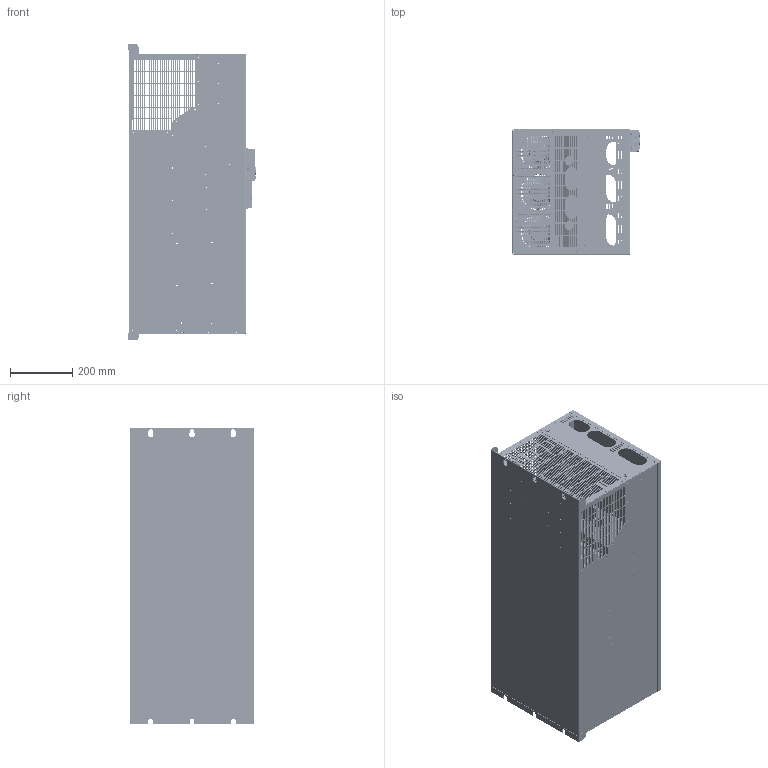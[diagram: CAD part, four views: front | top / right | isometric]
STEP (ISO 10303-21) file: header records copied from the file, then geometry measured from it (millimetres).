
FILE_DESCRIPTION (( 'STEP AP214' ), '1' );
FILE_NAME ('H120-160-200kw(2)^H120-160-200kw.STEP', '2024-12-10T06:06:16', ( '微软用户' ), ( '微软中国' ), 'SwSTEP 2.0', 'SolidWorks 2018', '' );
FILE_SCHEMA (( 'AUTOMOTIVE_DESIGN' ));
Length unit declared in the file: millimetre
Products named in the file (100): M4________-1-2_M4________^H164204______-1-2-2_H164204________-0201-1-2_H120-160-200kw(2)_H120-160-200kw; ____-____120x120-2^________120x120-2_H120-160-200kw(2)_H120-160-200kw; H164204PCB______-20190318-______20190328-0201-1-2^H164204______________-____-20190313-______20190328-0201-1-2_H164204____________-____-2018031820190328-0201-1-2_H120-160-200kw(2)_H120-1~; H164204______________-0201-1-2^H164204______-1-2_H164204________-0201-1-2_H120-160-200kw(2)_H120-160-200kw; pan head cross recess screw_iso_ISO 7045 - M2 x 8 - Z - 8N^H164204____________-2019031920190328-0201-1-2_H164204____________-____-2018031820190328-0201-1-2_H120-160-200kw(2)_H120-160-20~;  m4x14______________-1-2^H164204______-1-2-2_H164204________-0201-1-2_H120-160-200kw(2)_H120-160-200kw; ________120x120-2-7^________120x120-2_H120-160-200kw(2)_H120-160-200kw; H164204____0201-1-2^H120-160-200kw(2)_H120-160-200kw; M4________-1-2_M4________^H164204______________-0201-1-2_H164204______-1-2_H164204________-0201-1-2_H120-160-200kw(2)_H120-160-200kw; H164204__________4-20190309-2019031920190328-0201-1-2^H164204____________-2019031920190328-0201-1-2_H164204____________-____-2018031820190328-0201-1-2_H120-160-200kw(2)_H120-160-200kw; m5________-1-2^H164204______-1-2-2_H164204________-0201-1-2_H120-160-200kw(2)_H120-160-200kw; ____-24V120x120-2^________120x120-2_H120-160-200kw(2)_H120-160-200kw; H164204________2 -1-2^H164204____0201-1-2_H120-160-200kw(2)_H120-160-200kw; H164204______________-0201-1-2-0^H164204______________-0201-1-2_H164204______-1-2_H164204________-0201-1-2_H120-160-200kw(2)_H120-160-200kw; H164204M3X3mm________-____-20190313-2019031920190328-0201-1-2^H164204____________-2019031920190328-0201-1-2_H164204____________-____-2018031820190328-0201-1-2_H120-160-200kw(2)_H120-160~; H164204______-0201-1-2^H164204______-1-2-2_H164204________-0201-1-2_H120-160-200kw(2)_H120-160-200kw; H164-DFSZJ-20200915-1-2^H120-160-200kw(2)_H120-160-200kw; H164204____________-1-2^H164204____0201-1-2_H120-160-200kw(2)_H120-160-200kw; H164204______-1-2-1^H164204______-1-2_H164204________-0201-1-2_H120-160-200kw(2)_H120-160-200kw; H164204__________-0201-1-2^H164204____________-2019031920190328-0201-1-2_H164204____________-____-2018031820190328-0201-1-2_H120-160-200kw(2)_H120-160-200kw; H164204______-1-2^H164204________-0201-1-2_H120-160-200kw(2)_H120-160-200kw; M4________-1-2_M4________^H164-DFSZJ-20200915-1-2_H120-160-200kw(2)_H120-160-200kw; H164204________2-0201-1-2^H164204____0201-1-2_H120-160-200kw(2)_H120-160-200kw; H164204______1-0201-1-2^H164204______-1-2-1_H164204______-1-2_H164204________-0201-1-2_H120-160-200kw(2)_H120-160-200kw; H164204____-20190311-2019031920190328-0201-1-2^H164204____________-2019031920190328-0201-1-2_H164204____________-____-2018031820190328-0201-1-2_H120-160-200kw(2)_H120-160-200kw; ____________________-20210202-2^H164204______-1-2_H164204________-0201-1-2_H120-160-200kw(2)_H120-160-200kw; H164204-fszj -20200915-1-2^H164-DFSZJ-20200915-1-2_H120-160-200kw(2)_H120-160-200kw; H164204________1-0201-1-2^H164204____0201-1-2_H120-160-200kw(2)_H120-160-200kw; H164204xsdr-77f0600012-125k-1000________-0201-1-2^H120-160-200kw(2)_H120-160-200kw; H164204____01-0201-1-2^H164204______-1-2-1_H164204______-1-2_H164204________-0201-1-2_H120-160-200kw(2)_H120-160-200kw; H164204____-20190309-2019031920190328-0201-1-2^H164204____________-2019031920190328-0201-1-2_H164204____________-____-2018031820190328-0201-1-2_H120-160-200kw(2)_H120-160-200kw; M4________-2_M4________^____________________-20210202-2_H164204______-1-2_H164204________-0201-1-2_H120-160-200kw(2)_H120-160-200kw; H164204-CFB______-1-2^H120-160-200kw(2)_H120-160-200kw; H164204__3-0201-1-2^H164204____0201-1-2_H120-160-200kw(2)_H120-160-200kw; H164204______-0201-1-2-9^H120-160-200kw(2)_H120-160-200kw; H164204M4________-0201-1-2_M4________^H164204______-1-2-1_H164204______-1-2_H164204________-0201-1-2_H120-160-200kw(2)_H120-160-200kw; H164204______-____-20190313-2019031920190328-0201-1-2^H164204____________-2019031920190328-0201-1-2_H164204____________-____-2018031820190328-0201-1-2_H120-160-200kw(2)_H120-160-200kw; ______________-2^____________________-20210202-2_H164204______-1-2_H164204________-0201-1-2_H120-160-200kw(2)_H120-160-200kw; H164204-cfb-01-1-2^H164204-CFB______-1-2_H120-160-200kw(2)_H120-160-200kw; H164204__1-0201-1-2^H164204____0201-1-2_H120-160-200kw(2)_H120-160-200kw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
Assembly tree (192 placements, depth 5):
  H120-160-200kw(2)^H120-160-200kw
    H164204________-0201-1-2^H120-160-200kw(2)_H120-160-200kw
      H164204______-1-2^H164204________-0201-1-2_H120-160-200kw(2)_H120-160-200kw
        H164204______-1-2-1^H164204______-1-2_H164204________-0201-1-2_H120-160-200kw(2)_H120-160-200kw
          H164204M4________-0201-1-2_M4________^H164204______-1-2-1_H164204______-1-2_H164204________-0201-1-2_H120-160-200kw(2)_H120-160-200kw  x12
          H164204____01-0201-1-2^H164204______-1-2-1_H164204______-1-2_H164204________-0201-1-2_H120-160-200kw(2)_H120-160-200kw
          H164204______1-0201-1-2^H164204______-1-2-1_H164204______-1-2_H164204________-0201-1-2_H120-160-200kw(2)_H120-160-200kw
        H164204______________-0201-1-2^H164204______-1-2_H164204________-0201-1-2_H120-160-200kw(2)_H120-160-200kw  x2
          H164204______________-0201-1-2-0^H164204______________-0201-1-2_H164204______-1-2_H164204________-0201-1-2_H120-160-200kw(2)_H120-160-200kw
          M4________-1-2_M4________^H164204______________-0201-1-2_H164204______-1-2_H164204________-0201-1-2_H120-160-200kw(2)_H120-160-200kw
        H164204________________-0201-1-2^H164204______-1-2_H164204________-0201-1-2_H120-160-200kw(2)_H120-160-200kw
          H164204____________-0201-1-2^H164204________________-0201-1-2_H164204______-1-2_H164204________-0201-1-2_H120-160-200kw(2)_H120-160-200kw
          M4________-1-2_M4________^H164204________________-0201-1-2_H164204______-1-2_H164204________-0201-1-2_H120-160-200kw(2)_H120-160-200kw  x3
        ________________-20200723-1-2^H164204______-1-2_H164204________-0201-1-2_H120-160-200kw(2)_H120-160-200kw  x2
          __________-20200723-1-2^________________-20200723-1-2_H164204______-1-2_H164204________-0201-1-2_H120-160-200kw(2)_H120-160-200kw
          M4________-1-2_M4________^________________-20200723-1-2_H164204______-1-2_H164204________-0201-1-2_H120-160-200kw(2)_H120-160-200kw
        H164204-JX-DKQZJ-1-2^H164204______-1-2_H164204________-0201-1-2_H120-160-200kw(2)_H120-160-200kw  x2
          H164204-JX-DKQZJ(460A)-1-2^H164204-JX-DKQZJ-1-2_H164204______-1-2_H164204________-0201-1-2_H120-160-200kw(2)_H120-160-200kw
           m10________-2^H164204-JX-DKQZJ-1-2_H164204______-1-2_H164204________-0201-1-2_H120-160-200kw(2)_H120-160-200kw
        ________________-1-2^H164204______-1-2_H164204________-0201-1-2_H120-160-200kw(2)_H120-160-200kw
          ________________-20200910-1-2^________________-1-2_H164204______-1-2_H164204________-0201-1-2_H120-160-200kw(2)_H120-160-200kw
          M4________-1-2_M4________^________________-1-2_H164204______-1-2_H164204________-0201-1-2_H120-160-200kw(2)_H120-160-200kw  x3
        ____________________-20210202-2^H164204______-1-2_H164204________-0201-1-2_H120-160-200kw(2)_H120-160-200kw  x2
          ______________-2^____________________-20210202-2_H164204______-1-2_H164204________-0201-1-2_H120-160-200kw(2)_H120-160-200kw
          M4________-2_M4________^____________________-20210202-2_H164204______-1-2_H164204________-0201-1-2_H120-160-200kw(2)_H120-160-200kw
      H164204______-1-2-2^H164204________-0201-1-2_H120-160-200kw(2)_H120-160-200kw
        H164204______-0201-1-2^H164204______-1-2-2_H164204________-0201-1-2_H120-160-200kw(2)_H120-160-200kw
        m5________-1-2^H164204______-1-2-2_H164204________-0201-1-2_H120-160-200kw(2)_H120-160-200kw  x8
         m4x14______________-1-2^H164204______-1-2-2_H164204________-0201-1-2_H120-160-200kw(2)_H120-160-200kw  x4
        M4________-1-2_M4________^H164204______-1-2-2_H164204________-0201-1-2_H120-160-200kw(2)_H120-160-200kw  x12
        m12________.H314454DPRT-03-1-2^H164204______-1-2-2_H164204________-0201-1-2_H120-160-200kw(2)_H120-160-200kw  x4
      H164204______-1-2-3^H164204________-0201-1-2_H120-160-200kw(2)_H120-160-200kw
        H164204M4________-0201-1-2_M4________^H164204______-1-2-3_H164204________-0201-1-2_H120-160-200kw(2)_H120-160-200kw  x2
        H164204______-1-2-4^H164204______-1-2-3_H164204________-0201-1-2_H120-160-200kw(2)_H120-160-200kw
      ____________________-20230807^H164204________-0201-1-2_H120-160-200kw(2)_H120-160-200kw  x2
        ______________-20230807^____________________-20230807_H164204________-0201-1-2_H120-160-200kw(2)_H120-160-200kw
        M4_________M4________^____________________-20230807_H164204________-0201-1-2_H120-160-200kw(2)_H120-160-200kw
      ______-1-2^H164204________-0201-1-2_H120-160-200kw(2)_H120-160-200kw
      H164204______-0201-1-2-5^H164204________-0201-1-2_H120-160-200kw(2)_H120-160-200kw
    H164204____0201-1-2^H120-160-200kw(2)_H120-160-200kw
      H164204__1-0201-1-2^H164204____0201-1-2_H120-160-200kw(2)_H120-160-200kw
      H164204__3-0201-1-2^H164204____0201-1-2_H120-160-200kw(2)_H120-160-200kw
      H164204________1-0201-1-2^H164204____0201-1-2_H120-160-200kw(2)_H120-160-200kw  x2
      H164204________2-0201-1-2^H164204____0201-1-2_H120-160-200kw(2)_H120-160-200kw  x2
      H164204____________-1-2^H164204____0201-1-2_H120-160-200kw(2)_H120-160-200kw  x2
      H164204________2 -1-2^H164204____0201-1-2_H120-160-200kw(2)_H120-160-200kw
    H164204____________-____-2018031820190328-0201-1-2^H120-160-200kw(2)_H120-160-200kw
      H164204______________-____-20190313-______20190328-0201-1-2^H164204____________-____-2018031820190328-0201-1-2_H120-160-200kw(2)_H120-160-200kw
        H164204PCB______-20190318-______20190328-0201-1-2^H164204______________-____-20190313-______20190328-0201-1-2_H164204____________-____-2018031820190328-0201-1-2_H120-160-200kw(2)_H120-1~
        H164204______2-20190318-______20190328-0201-1-2^H164204______________-____-20190313-______20190328-0201-1-2_H164204____________-____-2018031820190328-0201-1-2_H120-160-200kw(2)_H120-160~
        H164204__________3-20190318-______20190328-0201-1-2^H164204______________-____-20190313-______20190328-0201-1-2_H164204____________-____-2018031820190328-0201-1-2_H120-160-200kw(2)_H120~  x2
        H164204__________4-20190318-______20190328-0201-1-2^H164204______________-____-20190313-______20190328-0201-1-2_H164204____________-____-2018031820190328-0201-1-2_H120-160-200kw(2)_H120~
        H164204____-20190318-______20190328-0201-1-2^H164204______________-____-20190313-______20190328-0201-1-2_H164204____________-____-2018031820190328-0201-1-2_H120-160-200kw(2)_H120-160-20~
        H164204DB__-______20190328-0201-1-2^H164204______________-____-20190313-______20190328-0201-1-2_H164204____________-____-2018031820190328-0201-1-2_H120-160-200kw(2)_H120-160-200kw
        H164204SPTB1-02-3.5-4-______20190328-0201-1-2^H164204______________-____-20190313-______20190328-0201-1-2_H164204____________-____-2018031820190328-0201-1-2_H120-160-200kw(2)_H120-160-2~  x2
        H164204GB9074_8-88_M3X6_ZI_1-____-20190313-______20190328-0201-1-2^H164204______________-____-20190313-______20190328-0201-1-2_H164204____________-____-2018031820190328-0201-1-2_H120-16~
        H164204SPTB1-02-3.5-4-______-2pin20190328-0201-1-2^H164204______________-____-20190313-______20190328-0201-1-2_H164204____________-____-2018031820190328-0201-1-2_H120-160-200kw(2)_H120-~
        H1642040141-21xx-17pin-______20190328-0201-1-2^H164204______________-____-20190313-______20190328-0201-1-2_H164204____________-____-2018031820190328-0201-1-2_H120-160-200kw(2)_H120-160-~
      H164204____________-2019031920190328-0201-1-2^H164204____________-____-2018031820190328-0201-1-2_H120-160-200kw(2)_H120-160-200kw
        H164204____1-2019031920190328-0201-1-2^H164204____________-2019031920190328-0201-1-2_H164204____________-____-2018031820190328-0201-1-2_H120-160-200kw(2)_H120-160-200kw
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Bounding box: 408.3 x 400 x 950 mm (x, y, z)
Volume: 9080030.5 mm3; surface area: 11706406.9 mm2
Topology: 233 solids, 235 shells, 17089 faces, 46475 edges, 30599 vertices
Faces by surface type: plane 10803, cylinder 4275, bspline 1036, cone 690, torus 202, sphere 83
Entity records: 473812 total; most frequent: CARTESIAN_POINT 124863, ORIENTED_EDGE 73186, DIRECTION 66071, EDGE_CURVE 36575, LINE 27085, VECTOR 27085, VERTEX_POINT 24280, AXIS2_PLACEMENT_3D 19493
